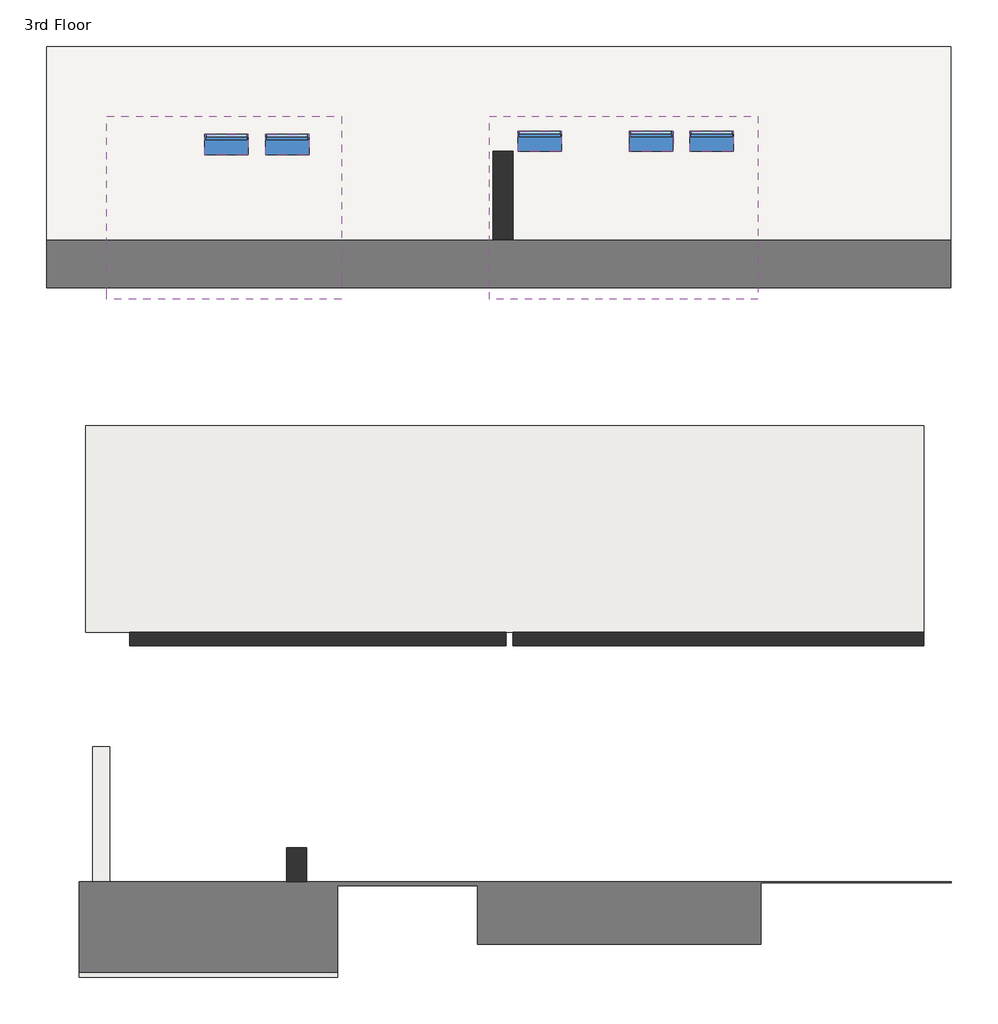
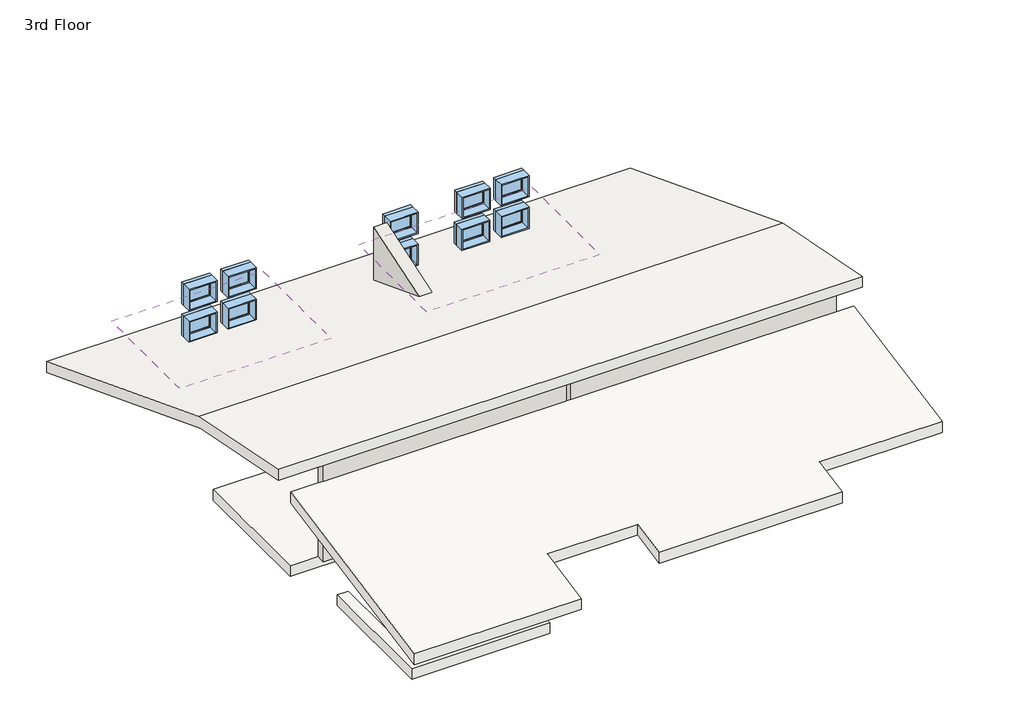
# One storey: 10 windows, 5 roofs, 5 walls, 1 slab.
"""IFC4 building model written with IfcOpenShell, lengths in millimetres."""

import ifcopenshell
import ifcopenshell.guid

model = None  # the IFC model being written
_history = None  # IfcOwnerHistory: only IFC2X3 demands one
_inside = {}  # id of a spatial element -> (the spatial element, [elements in it])
_under = {}  # id of a project, library or spatial element -> (it, [spatial elements below it])
_declared = {}  # id of a project -> (the project, [libraries it declares])
_typed = {}  # id of a type object -> (the type object, [elements of that type])
_made_of = {}  # id of a material, layer set ... -> (it, [elements and type objects made of it])


def new_model(schema):
    """Start an empty IFC model of exactly this schema.

    Asked for "IFC4X3", IfcOpenShell would pick the latest addendum, in which some entities
    have other attributes; the version numbers below select the first issue.
    IFC2X3 requires an IfcOwnerHistory on every rooted entity: one is made here for all.
    """
    global model, _history
    if schema == "IFC4X3":
        model = ifcopenshell.file(schema_version=(4, 3, 0, 0))
    else:
        model = ifcopenshell.file(schema=schema)
    _inside.clear()
    _under.clear()
    _declared.clear()
    _typed.clear()
    _made_of.clear()
    _history = None
    if model.schema == "IFC2X3":
        org = make("IfcOrganization", Name="unknown")
        user = make(
            "IfcPersonAndOrganization",
            ThePerson=make("IfcPerson", FamilyName="unknown"),
            TheOrganization=org,
        )
        app = make(
            "IfcApplication",
            ApplicationDeveloper=org,
            Version="unknown",
            ApplicationFullName="unknown",
            ApplicationIdentifier="unknown",
        )
        _history = make(
            "IfcOwnerHistory",
            OwningUser=user,
            OwningApplication=app,
            ChangeAction="ADDED",
            CreationDate=0,
        )
    return model


def make(cls, **values):
    """One entity of the class cls with the attributes given. An attribute that is None is left unset."""
    return model.create_entity(
        cls, **{name: value for name, value in values.items() if value is not None}
    )


def rooted(cls, **values):
    """An entity with a GlobalId (a new one), such as an element, a storey or a relation."""
    return make(cls, GlobalId=ifcopenshell.guid.new(), OwnerHistory=_history, **values)


def si_unit(unit_type, name, prefix=None):
    """IfcSIUnit, for example si_unit("LENGTHUNIT", "METRE", prefix="MILLI")."""
    return make("IfcSIUnit", UnitType=unit_type, Prefix=prefix, Name=name)


def assignment(units):
    """IfcUnitAssignment: the units of a project."""
    return None if units is None else make("IfcUnitAssignment", Units=units)


def point(xyz):
    """IfcCartesianPoint."""
    return None if xyz is None else make("IfcCartesianPoint", Coordinates=xyz)


def direction(xyz):
    """IfcDirection."""
    return None if xyz is None else make("IfcDirection", DirectionRatios=xyz)


def frame(location, z_axis=None, x_axis=None):
    """IfcAxis2Placement3D, a coordinate frame: its origin and axes. An axis left out is left unset."""
    return make(
        "IfcAxis2Placement3D",
        Location=point(location),
        Axis=direction(z_axis),
        RefDirection=direction(x_axis),
    )


def origin():
    """The frame at (0, 0, 0) with its axes left unset."""
    return frame((0.0, 0.0, 0.0))


def place(relative_to, where):
    """IfcLocalPlacement: puts the frame where relative to a parent placement (None: the world)."""
    return make(
        "IfcLocalPlacement", PlacementRelTo=relative_to, RelativePlacement=where
    )


def context(
    kind, dimensions, precision=None, world=None, true_north=None, identifier=None
):
    """IfcGeometricRepresentationContext, for example the 3D "Model" context."""
    return make(
        "IfcGeometricRepresentationContext",
        ContextIdentifier=identifier,
        ContextType=kind,
        CoordinateSpaceDimension=dimensions,
        Precision=precision,
        WorldCoordinateSystem=world,
        TrueNorth=true_north,
    )


def project(units=None, contexts=None):
    """IfcProject with its units and contexts."""
    return rooted(
        "IfcProject",
        Name="project",
        RepresentationContexts=contexts,
        UnitsInContext=assignment(units),
    )


def spatial(cls, under=None, at=None, **own):
    """A site, building, storey or space (cls), placed at a placement, below another one or the project."""
    s = rooted(cls, ObjectPlacement=at, **own)
    if under is not None:
        _under.setdefault(under.id(), (under, []))[1].append(s)
    return s


def polyline(points):
    """IfcPolyline through the points."""
    return make("IfcPolyline", Points=[point(p) for p in points])


def outline(outer, holes=None, kind="AREA"):
    """IfcArbitraryClosedProfileDef: a profile drawn as a closed curve; with holes, ...WithVoids."""
    if holes is None:
        return make("IfcArbitraryClosedProfileDef", ProfileType=kind, OuterCurve=outer)
    return make(
        "IfcArbitraryProfileDefWithVoids",
        ProfileType=kind,
        OuterCurve=outer,
        InnerCurves=holes,
    )


def extrude(swept, where, along, depth):
    """IfcExtrudedAreaSolid: the profile swept, set in the frame where, extruded along a direction by depth."""
    return make(
        "IfcExtrudedAreaSolid",
        SweptArea=swept,
        Position=where,
        ExtrudedDirection=direction(along),
        Depth=depth,
    )


def faces_of(points, faces, orient=None, outer=None):
    """IfcFace entities. A face is a list of loops; a loop is a list of indices into points, from 0.

    orient and outer hold one flag for each loop. By default every Orientation is true, the
    first loop of a face is its IfcFaceOuterBound and the others are IfcFaceBound.
    """
    made = []
    for i, loops in enumerate(faces):
        bounds = []
        for j, loop in enumerate(loops):
            is_outer = j == 0 if outer is None else outer[i][j]
            bounds.append(
                make(
                    "IfcFaceOuterBound" if is_outer else "IfcFaceBound",
                    Bound=make("IfcPolyLoop", Polygon=[points[k] for k in loop]),
                    Orientation=True if orient is None else orient[i][j],
                )
            )
        made.append(make("IfcFace", Bounds=bounds))
    return made


def faceted_brep(points, faces, orient=None, outer=None, voids=None):
    """IfcFacetedBrep: a solid bounded by flat faces; with voids (closed shells), ...WithVoids."""
    shared = [point(p) for p in points]
    hull = make("IfcClosedShell", CfsFaces=faces_of(shared, faces, orient, outer))
    if voids is None:
        return make("IfcFacetedBrep", Outer=hull)
    return make(
        "IfcFacetedBrepWithVoids",
        Outer=hull,
        Voids=[
            make(cls, CfsFaces=faces_of(shared, fs, o, b)) for cls, fs, o, b in voids
        ],
    )


def shape(context_of_items, identifier, shape_type, items):
    """IfcShapeRepresentation: the items that make up one representation, for example the "Body"."""
    return make(
        "IfcShapeRepresentation",
        ContextOfItems=context_of_items,
        RepresentationIdentifier=identifier,
        RepresentationType=shape_type,
        Items=items,
    )


def source(mapping_origin, context_of_items, identifier, shape_type, items):
    """IfcRepresentationMap: a shape defined once, which mapped items show again and again."""
    return make(
        "IfcRepresentationMap",
        MappingOrigin=mapping_origin,
        MappedRepresentation=shape(context_of_items, identifier, shape_type, items),
    )


def transform(
    local_origin,
    x_axis=None,
    y_axis=None,
    z_axis=None,
    scale=None,
    scale2=None,
    scale3=None,
    uniform=True,
):
    """IfcCartesianTransformationOperator3D, or its non-uniform kind. x_axis, y_axis, z_axis: its Axis1, 2, 3."""
    if uniform:
        return make(
            "IfcCartesianTransformationOperator3D",
            Axis1=direction(x_axis),
            Axis2=direction(y_axis),
            LocalOrigin=point(local_origin),
            Scale=scale,
            Axis3=direction(z_axis),
        )
    return make(
        "IfcCartesianTransformationOperator3DnonUniform",
        Axis1=direction(x_axis),
        Axis2=direction(y_axis),
        LocalOrigin=point(local_origin),
        Scale=scale,
        Axis3=direction(z_axis),
        Scale2=scale2,
        Scale3=scale3,
    )


def mapped(mapping_source, mapping_target):
    """IfcMappedItem: shows the shape of a source again, moved by a transform."""
    return make(
        "IfcMappedItem", MappingSource=mapping_source, MappingTarget=mapping_target
    )


def made_of(thing, what):
    """Note that an element or type object is made of a material, layer set ...; save() writes the relation."""
    if what is not None:
        _made_of.setdefault(what.id(), (what, []))[1].append(thing)
    return thing


def element(
    cls,
    number,
    at=None,
    inside=None,
    cuts=None,
    type_object=None,
    material=None,
    context=None,
    identifier="Body",
    shape_type=None,
    held_by="IfcProductDefinitionShape",
    body=None,
    shapes=None,
    **own,
):
    """One element of the class cls, such as IfcWall. Its Tag is "e" and its number.

    at: its placement. inside: the storey or other place that contains it. cuts: it is an
    opening in that element (IfcRelVoidsElement). A single representation is given by context,
    identifier, shape_type and body (its items); several are given by shapes. held_by: the class
    of the entity that holds the representations. save() writes the other relations.
    """
    e = rooted(cls, Tag="e%d" % number, ObjectPlacement=at, **own)
    if body is not None:
        shapes = [shape(context, identifier, shape_type, body)]
    if shapes is not None:
        e.Representation = make(held_by, Representations=shapes)
    if inside is not None:
        _inside.setdefault(inside.id(), (inside, []))[1].append(e)
    if cuts is not None:
        rooted(
            "IfcRelVoidsElement", RelatingBuildingElement=cuts, RelatedOpeningElement=e
        )
    if type_object is not None:
        _typed.setdefault(type_object.id(), (type_object, []))[1].append(e)
    return made_of(e, material)


def aggregate(whole, parts):
    """IfcRelAggregates: a whole, such as a stair, and the parts it consists of."""
    return rooted("IfcRelAggregates", RelatingObject=whole, RelatedObjects=parts)


def save(model, path):
    """Write the relations noted so far, then the file.

    IfcRelAggregates (storeys below a building ...), IfcRelContainedInSpatialStructure (elements
    in a storey), IfcRelDefinesByType, IfcRelAssociatesMaterial and IfcRelDeclares: one each for
    every whole, place, type object, material and project.
    """
    for whole, parts in _under.values():
        aggregate(whole, parts)
    for where, things in _inside.values():
        rooted(
            "IfcRelContainedInSpatialStructure",
            RelatedElements=things,
            RelatingStructure=where,
        )
    for kind, things in _typed.values():
        rooted("IfcRelDefinesByType", RelatedObjects=things, RelatingType=kind)
    for what, things in _made_of.values():
        rooted("IfcRelAssociatesMaterial", RelatedObjects=things, RelatingMaterial=what)
    for by, libraries in _declared.values():
        rooted("IfcRelDeclares", RelatingContext=by, RelatedDefinitions=libraries)
    model.write(path)


def window_b6feeaa8(model_context):
    return source(origin(), model_context, "Body", "SweptSolid", [
        extrude(outline(polyline([(279.4, 96.8375), (-355.6, 96.8375), (-355.6, 109.5375), (279.4, 109.5375), (279.4, 96.8375)])), frame((0.0, 0.0, 977.9), z_axis=(0.0, 0.0, 1.0), x_axis=(1.0, 0.0, 0.0)), (0.0, 0.0, 1.0), 482.6),
        extrude(outline(polyline([(1504.95, -400.05), (933.45, -400.05), (933.45, 323.85), (1504.95, 323.85), (1504.95, -400.05)]), holes=[polyline([(1460.5, -355.6), (1460.5, 279.4), (977.9, 279.4), (977.9, -355.6), (1460.5, -355.6)])]), frame((0.0, 80.9625, 0.0), z_axis=(0.0, 1.0, 0.0), x_axis=(0.0, 0.0, 1.0)), (0.0, 0.0, 1.0), 44.45),
        extrude(outline(polyline([(1524.0, -419.1), (914.4, -419.1), (914.4, 342.9), (1524.0, 342.9), (1524.0, -419.1)]), holes=[polyline([(1492.25, -387.35), (1492.25, 311.15), (946.15, 311.15), (946.15, -387.35), (1492.25, -387.35)])]), frame((0.0, -176.2125, 0.0), z_axis=(0.0, 1.0, 0.0), x_axis=(0.0, 0.0, 1.0)), (0.0, 0.0, 1.0), 257.175),
        extrude(outline(polyline([(1524.0, 342.9), (1524.0, -419.1), (914.4, -419.1), (914.4, 342.9), (1524.0, 342.9)]), holes=[polyline([(1504.95, 323.85), (933.45, 323.85), (933.45, -400.05), (1504.95, -400.05), (1504.95, 323.85)])]), frame((0.0, 80.9625, 0.0), z_axis=(0.0, 1.0, 0.0), x_axis=(0.0, 0.0, 1.0)), (0.0, 0.0, 1.0), 95.25),
    ])


model = new_model("IFC4")

# Units and contexts
model_context = context("Model", 3, world=origin())
ifc_project = project(units=[si_unit("LENGTHUNIT", "METRE", prefix="MILLI")], contexts=[model_context])

# Site, building, storey
site = spatial("IfcSite", under=ifc_project)
building = spatial("IfcBuilding", under=site)
storey = spatial("IfcBuildingStorey", under=building, Name="3rd Floor", Elevation=6705.6)

# Roofs
placement = place(None, origin())
element("IfcRoof", 1, ObjectType="Generic - 12\"", at=placement, inside=storey, context=model_context, shape_type="Brep", body=[
    faceted_brep([(-9197.9696781, -2238.8436915, 9016.0381466), (-9197.9696781, -8063.7936915, 7890.4823024), (-4658.1321781, -8063.7936904, 7890.4823026), (-4658.1321781, -6456.7796456, 8201.005835), (-2199.0800891, -6456.7796456, 8201.005835), (-2199.0800891, -7480.0311915, 8003.282806), (2779.4428219, -7480.0311915, 8003.282806), (2779.4428219, -6401.2171456, 8211.742184), (6123.3410555, -6401.2171456, 8211.742184), (6123.3410555, -2238.8436915, 9016.0381466), (-9197.9696781, -2238.8436915, 8705.6), (6123.3410555, -2238.8436915, 8705.6), (6123.3410555, -6401.2171456, 7901.3040375), (2779.4428219, -6401.2171456, 7901.3040375), (2779.4428219, -7480.0311915, 7692.8446594), (-2199.0800891, -7480.0311915, 7692.8446594), (-2199.0800891, -6456.7796456, 7890.5676884), (-4658.1321781, -6456.7796456, 7890.5676884), (-4658.1321781, -8063.7936904, 7580.044156), (-9197.9696781, -8063.7936915, 7580.0441558)], [[[0, 1, 2, 3, 4, 5, 6, 7, 8, 9]], [[10, 11, 12, 13, 14, 15, 16, 17, 18, 19]], [[1, 0, 10, 19]], [[2, 1, 19, 18]], [[3, 2, 18, 17]], [[4, 3, 17, 16]], [[5, 4, 16, 15]], [[6, 5, 15, 14]], [[7, 6, 14, 13]], [[8, 7, 13, 12]], [[9, 8, 12, 11]], [[0, 9, 11, 10]]]),
])
element("IfcRoof", 2, ObjectType="Generic - 12\"", at=placement, inside=storey, context=model_context, shape_type="SweptSolid", body=[
    extrude(outline(polyline([(-8657.1071781, -4012.0811915), (-8657.1071781, -7202.1561915), (-5204.2321781, -7202.1561915), (-5204.2321781, -7517.6936915), (-8963.0196781, -7517.6936915), (-8963.0196781, -4012.0811915), (-8657.1071781, -4012.0811915)])), frame((0.0, 0.0, 6748.0), z_axis=(0.0, 0.0, 1.0), x_axis=(1.0, 0.0, 0.0)), (0.0, 0.0, 1.0), 304.8),
])
element("IfcRoof", 3, ObjectType="Generic - 12\"", at=placement, inside=storey, context=model_context, shape_type="SweptSolid", body=[
    extrude(outline(polyline([(-2629.6250799, 10101.1644135), (1108.2563085, 9363.368557), (8286.1172625, 6600.0924272), (8286.1172625, 6273.4862476), (1023.3611207, 9069.4446552), (-2629.6250799, 9790.4836082), (-2629.6250799, 10101.1644135)])), frame((-9771.0723401, 0.0, 0.0), z_axis=(1.0, 0.0, 0.0), x_axis=(0.0, 1.0, 0.0)), (0.0, 0.0, 1.0), 15891.2383955),
])
element("IfcRoof", 4, ObjectType="Generic - 12\"", at=placement, inside=storey, context=model_context, shape_type="SweptSolid", body=[
    extrude(outline(polyline([(3849.6731314, 8307.9995944), (7058.9083119, 9363.2548803), (7058.9083119, 9042.4), (3849.6731314, 7987.1447141), (3849.6731314, 8307.9995944)])), frame((-1987.7860601, 0.0, 0.0), z_axis=(1.0, 0.0, 0.0), x_axis=(0.0, 1.0, 0.0)), (0.0, 0.0, 1.0), 4715.641382),
])
element("IfcRoof", 5, ObjectType="Generic - 12\"", at=placement, inside=storey, context=model_context, shape_type="SweptSolid", body=[
    extrude(outline(polyline([(3849.6731314, 8307.9995944), (7058.9083119, 9363.2548803), (7058.9083119, 9042.4), (4299.1816718, 8134.9513524), (3849.6731314, 8307.9995944)])), frame((-8713.8821781, 0.0, 0.0), z_axis=(1.0, 0.0, 0.0), x_axis=(0.0, 1.0, 0.0)), (0.0, 0.0, 1.0), 4124.183618),
])

# Slab
element("IfcSlab", 6, ObjectType="Generic - 12\"", at=placement, inside=storey, context=model_context, shape_type="SweptSolid", body=[
    extrude(outline(polyline([(-9080.4946781, -1997.5436915), (-9080.4946781, 1625.1313085), (5642.6530789, 1625.1313085), (5642.6530789, -1997.5436915), (-9080.4946781, -1997.5436915)])), frame((0.0, 0.0, 6400.8), z_axis=(0.0, 0.0, 1.0), x_axis=(1.0, 0.0, 0.0)), (0.0, 0.0, 1.0), 304.8),
])

# Walls
element("IfcWall", 7, ObjectType="Exterior - Brick", at=placement, inside=storey, context=model_context, shape_type="Brep", body=[
    faceted_brep([(-5201.0571781, -6854.1186915, 6705.6), (-5201.0571781, -5785.7311915, 6705.6), (-5201.0571781, -5785.7311915, 8020.2344682), (-5201.0571781, -6854.1186915, 7813.789813), (-5553.4821781, -6854.1186915, 6705.6), (-5553.4821781, -6854.1186915, 7813.789813), (-5553.4821781, -5785.7311915, 8020.2344682), (-5553.4821781, -5785.7311915, 6705.6), (-5204.2321781, -6854.1186915, 6705.6), (-5204.2321781, -6854.1186915, 7813.789813)], [[[0, 1, 2, 3]], [[4, 5, 6, 7]], [[1, 0, 8, 4, 7]], [[2, 1, 7, 6]], [[0, 3, 9, 5, 4, 8]], [[3, 2, 6, 5, 9]]]),
])
element("IfcWall", 8, ObjectType="Exterior - Brick on Mtl. Stud", at=placement, inside=storey, context=model_context, shape_type="Brep", body=[
    faceted_brep([(-8664.6696781, -7206.5436915, 6705.6), (-5204.2321781, -7206.5436915, 6705.6), (-5204.2321781, -7206.5436915, 7745.6906846), (-8664.6696781, -7206.5436915, 7745.6906846), (-8312.2446781, -6854.1186915, 6705.6), (-8312.2446781, -6854.1186915, 7813.789813), (-5553.4821781, -6854.1186915, 7813.789813), (-5204.2321781, -6854.1186915, 7813.789813), (-5204.2321781, -6854.1186915, 6705.6), (-5553.4821781, -6854.1186915, 6705.6)], [[[0, 1, 2, 3]], [[4, 5, 6, 7, 8, 9]], [[1, 0, 4, 9, 8]], [[0, 3, 5, 4]], [[2, 1, 8, 7]], [[3, 2, 7, 6, 5]]]),
])
element("IfcWall", 9, ObjectType="Exterior - Brick on Mtl. Stud", at=placement, inside=storey, context=model_context, shape_type="SweptSolid", body=[
    extrude(outline(polyline([(6447.0188085, 7308.0940019), (4299.1816718, 8134.9513524), (6447.0188085, 8841.1995281), (6447.0188085, 7308.0940019)])), frame((-1928.5446781, 0.0, 0.0), z_axis=(1.0, 0.0, 0.0), x_axis=(0.0, 1.0, 0.0)), (0.0, 0.0, 1.0), 352.425),
])
element("IfcWall", 10, ObjectType="Exterior - Stucco", at=placement, inside=storey, context=model_context, shape_type="Brep", body=[
    faceted_brep([(-8312.2446781, -2238.8436915, 6705.6), (-1699.9446781, -2238.8436915, 6705.6), (-1699.9446781, -2238.8436915, 8705.6), (-1699.9446781, -2238.8436915, 9713.3498366), (-8312.2446781, -2238.8436915, 9713.3498366), (-8312.2446781, -1997.5436915, 6705.6), (-8312.2446781, -1997.5436915, 9665.7212145), (-1699.9446781, -1997.5436915, 9665.7212145), (-1699.9446781, -1997.5436915, 6705.6), (-8312.2446781, -2121.3686915, 6705.6)], [[[0, 1, 2, 3, 4]], [[5, 6, 7, 8]], [[1, 0, 9, 5, 8]], [[0, 4, 6, 5, 9]], [[3, 2, 1, 8, 7]], [[4, 3, 7, 6]]]),
])
element("IfcWall", 11, ObjectType="Exterior - Stucco", at=placement, inside=storey, context=model_context, shape_type="Brep", body=[
    faceted_brep([(-1576.1196781, -2238.8436915, 6705.6), (5642.6530789, -2238.8436915, 6705.6), (5642.6530789, -2238.8436915, 8705.6), (5642.6530789, -2238.8436915, 9713.3498366), (-1576.1196781, -2238.8436915, 9713.3498366), (-1576.1196781, -2238.8436915, 8705.6), (-1576.1196781, -1997.5436915, 6705.6), (-1576.1196781, -1997.5436915, 9665.7212145), (5642.6530789, -1997.5436915, 9665.7212145), (5642.6530789, -1997.5436915, 6705.6)], [[[0, 1, 2, 3, 4, 5]], [[6, 7, 8, 9]], [[1, 0, 6, 9]], [[0, 5, 4, 7, 6]], [[3, 2, 1, 9, 8]], [[4, 3, 8, 7]]]),
])

# Windows
window_shape = window_b6feeaa8(model_context)
element("IfcWindow", 12, ObjectType="Fixed : 24\" x 30\"", at=placement, inside=storey, context=model_context, shape_type="MappedRepresentation", body=[
    mapped(window_shape, transform((-5503.1821781, 6565.7063085, 6400.8), x_axis=(1.0, 0.0, 0.0), y_axis=(0.0, 1.0, 0.0), z_axis=(0.0, 0.0, 1.0))),
])
element("IfcWindow", 13, ObjectType="Fixed : 24\" x 30\"", at=placement, inside=storey, context=model_context, shape_type="MappedRepresentation", body=[
    mapped(window_shape, transform((-6569.9821781, 6565.7063085, 6400.8), x_axis=(1.0, 0.0, 0.0), y_axis=(0.0, 1.0, 0.0), z_axis=(0.0, 0.0, 1.0))),
])
element("IfcWindow", 14, ObjectType="Fixed : 24\" x 30\"", at=placement, inside=storey, context=model_context, shape_type="MappedRepresentation", body=[
    mapped(window_shape, transform((-5503.1821781, 6565.7063085, 7315.2), x_axis=(1.0, 0.0, 0.0), y_axis=(0.0, 1.0, 0.0), z_axis=(0.0, 0.0, 1.0))),
])
element("IfcWindow", 15, ObjectType="Fixed : 24\" x 30\"", at=placement, inside=storey, context=model_context, shape_type="MappedRepresentation", body=[
    mapped(window_shape, transform((-6569.9821781, 6565.7063085, 7315.2), x_axis=(1.0, 0.0, 0.0), y_axis=(0.0, 1.0, 0.0), z_axis=(0.0, 0.0, 1.0))),
])
element("IfcWindow", 16, ObjectType="Fixed : 24\" x 30\"", at=placement, inside=storey, context=model_context, shape_type="MappedRepresentation", body=[
    mapped(window_shape, transform((889.1553219, 6623.2313085, 6400.8), x_axis=(1.0, 0.0, 0.0), y_axis=(0.0, 1.0, 0.0), z_axis=(0.0, 0.0, 1.0))),
])
element("IfcWindow", 17, ObjectType="Fixed : 24\" x 30\"", at=placement, inside=storey, context=model_context, shape_type="MappedRepresentation", body=[
    mapped(window_shape, transform((1955.9553219, 6623.2313085, 7315.2), x_axis=(1.0, 0.0, 0.0), y_axis=(0.0, 1.0, 0.0), z_axis=(0.0, 0.0, 1.0))),
])
element("IfcWindow", 18, ObjectType="Fixed : 24\" x 30\"", at=placement, inside=storey, context=model_context, shape_type="MappedRepresentation", body=[
    mapped(window_shape, transform((-1064.6446781, 6623.2313085, 7315.2), x_axis=(1.0, 0.0, 0.0), y_axis=(0.0, 1.0, 0.0), z_axis=(0.0, 0.0, 1.0))),
])
element("IfcWindow", 19, ObjectType="Fixed : 24\" x 30\"", at=placement, inside=storey, context=model_context, shape_type="MappedRepresentation", body=[
    mapped(window_shape, transform((-1064.6446781, 6623.2313085, 6400.8), x_axis=(1.0, 0.0, 0.0), y_axis=(0.0, 1.0, 0.0), z_axis=(0.0, 0.0, 1.0))),
])
element("IfcWindow", 20, ObjectType="Fixed : 24\" x 30\"", at=placement, inside=storey, context=model_context, shape_type="MappedRepresentation", body=[
    mapped(window_shape, transform((1955.9553219, 6623.2313085, 6400.8), x_axis=(1.0, 0.0, 0.0), y_axis=(0.0, 1.0, 0.0), z_axis=(0.0, 0.0, 1.0))),
])
element("IfcWindow", 21, ObjectType="Fixed : 24\" x 30\"", at=placement, inside=storey, context=model_context, shape_type="MappedRepresentation", body=[
    mapped(window_shape, transform((903.5553219, 6623.2313085, 7315.2), x_axis=(1.0, 0.0, 0.0), y_axis=(0.0, 1.0, 0.0), z_axis=(0.0, 0.0, 1.0))),
])

save(model, "model.ifc")
